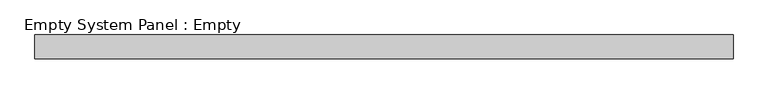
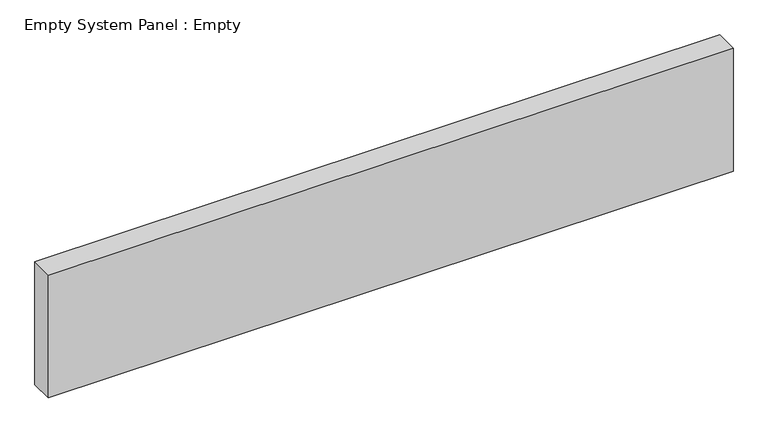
"""IFC4 building model written with IfcOpenShell, lengths in millimetres: plate geometry, Empty System Panel : Empty."""

from ifc_helpers import new_model, si_unit, origin, origin_with_axes, place, context, project, spatial, polyline, outline, extrude, source, transform, mapped, element, save


def empty_system_panel_empty_0677d599(model_context):
    return source(origin(), model_context, "Body", "SweptSolid", [
        extrude(outline(polyline([(1462.5, -50.0), (-1462.5, -50.0), (-1462.5, 50.0), (1462.5, 50.0), (1462.5, -50.0)])), origin_with_axes(), (0.0, 0.0, 1.0), 555.0),
    ])


if __name__ == "__main__":
    model = new_model("IFC4")
    model_context = context("Model", 3, world=origin())
    ifc_project = project(units=[si_unit("LENGTHUNIT", "METRE", prefix="MILLI")], contexts=[model_context])
    site = spatial("IfcSite", under=ifc_project)
    building = spatial("IfcBuilding", under=site)
    placement = place(None, origin())
    empty_system_panel_empty_shape = empty_system_panel_empty_0677d599(model_context)
    element("IfcPlate", 1, ObjectType="Empty System Panel : Empty", at=placement, inside=building, context=model_context, shape_type="MappedRepresentation", body=[
        mapped(empty_system_panel_empty_shape, transform((0.0, 0.0, 0.0), x_axis=(1.0, 0.0, 0.0), y_axis=(0.0, 1.0, 0.0), z_axis=(0.0, 0.0, 1.0))),
    ])
    save(model, "model.ifc")
